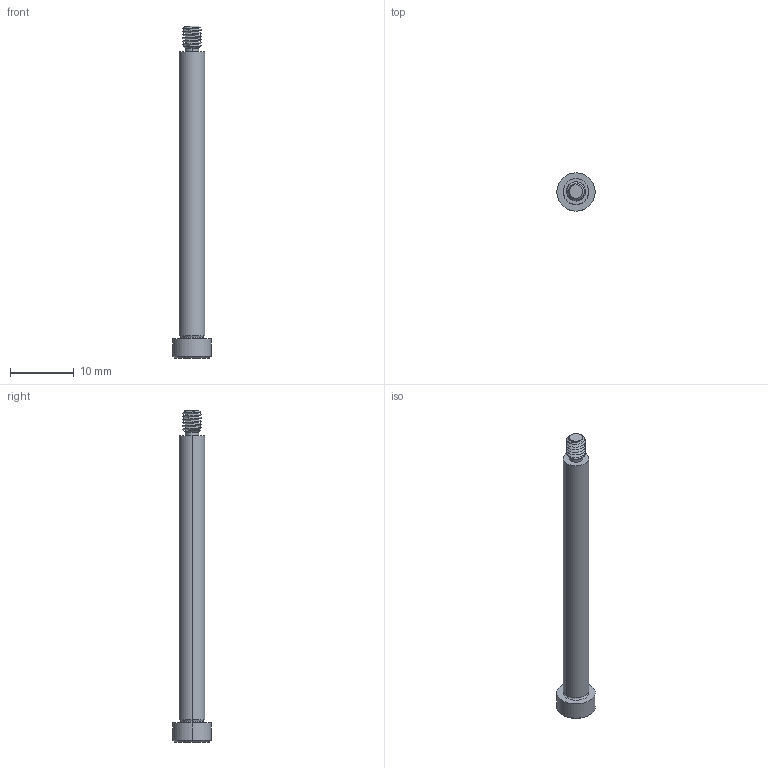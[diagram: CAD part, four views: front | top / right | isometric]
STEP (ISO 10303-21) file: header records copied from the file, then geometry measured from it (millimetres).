
FILE_DESCRIPTION (( 'STEP AP203' ), '1' );
FILE_NAME ('P0130.040-045-B2.step', '2021-11-09T21:08:34', ( '' ), ( '' ), 'SwSTEP 2.0', 'SolidWorks 2019', '' );
FILE_SCHEMA (( 'CONFIG_CONTROL_DESIGN' ));
Length unit declared in the file: millimetre
Products named in the file (1): P0130.040-045-B2
Bounding box: 6 x 6 x 52 mm (x, y, z)
Volume: 660.8 mm3; surface area: 749.8 mm2
Topology: 1 solids, 1 shells, 54 faces, 124 edges, 73 vertices
Faces by surface type: cylinder 18, plane 16, cone 14, torus 4, bspline 2
Entity records: 2218 total; most frequent: CARTESIAN_POINT 1016, ORIENTED_EDGE 244, DIRECTION 229, EDGE_CURVE 122, AXIS2_PLACEMENT_3D 93, VERTEX_POINT 73, EDGE_LOOP 57, ADVANCED_FACE 54
